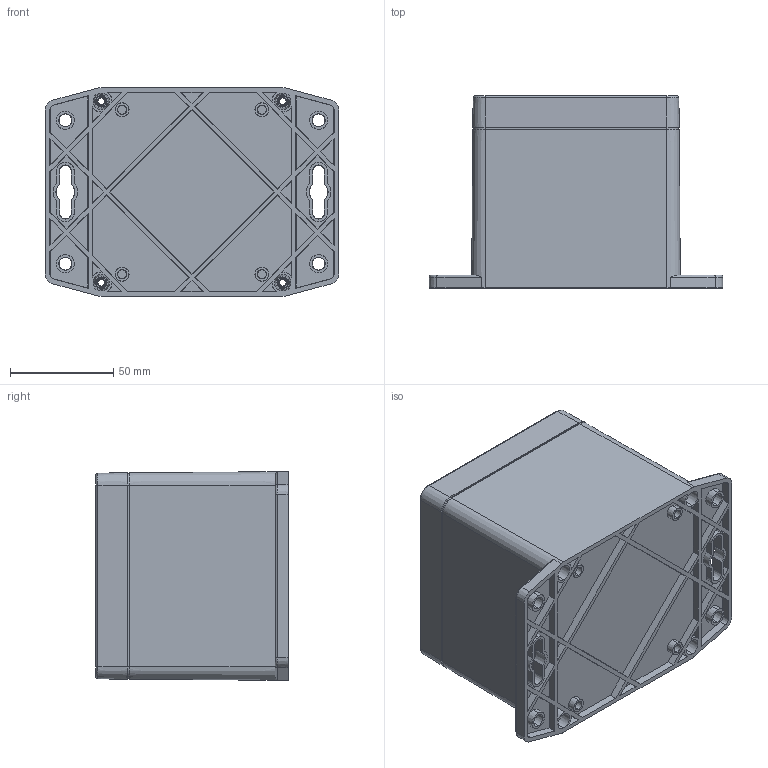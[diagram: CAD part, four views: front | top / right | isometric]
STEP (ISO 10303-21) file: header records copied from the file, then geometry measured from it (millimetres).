
FILE_DESCRIPTION (( 'STEP AP203' ), '1' );
FILE_NAME ('SF-220-0-0.STEP', '2020-02-19T14:17:22', ( '' ), ( '' ), 'SwSTEP 2.0', 'SolidWorks 2020', '' );
FILE_SCHEMA (( 'CONFIG_CONTROL_DESIGN' ));
Length unit declared in the file: millimetre
Products named in the file (4): SF-220_pcb_sample; SE-218-P-1; SF-220-P-2; SF-220-0-0
Assembly tree (3 placements, depth 2):
  SF-220-0-0
    SF-220-P-2
    SE-218-P-1
    SF-220_pcb_sample
Bounding box: 142.1 x 93 x 100.99 mm (x, y, z)
Volume: 243079.5 mm3; surface area: 170839.2 mm2
Topology: 7 solids, 7 shells, 1086 faces, 2874 edges, 1900 vertices
Faces by surface type: plane 376, cylinder 262, bspline 232, cone 208, torus 8
Entity records: 36752 total; most frequent: CARTESIAN_POINT 10434, ORIENTED_EDGE 5748, DIRECTION 4930, EDGE_CURVE 2874, VERTEX_POINT 1900, AXIS2_PLACEMENT_3D 1756, LINE 1418, VECTOR 1418
